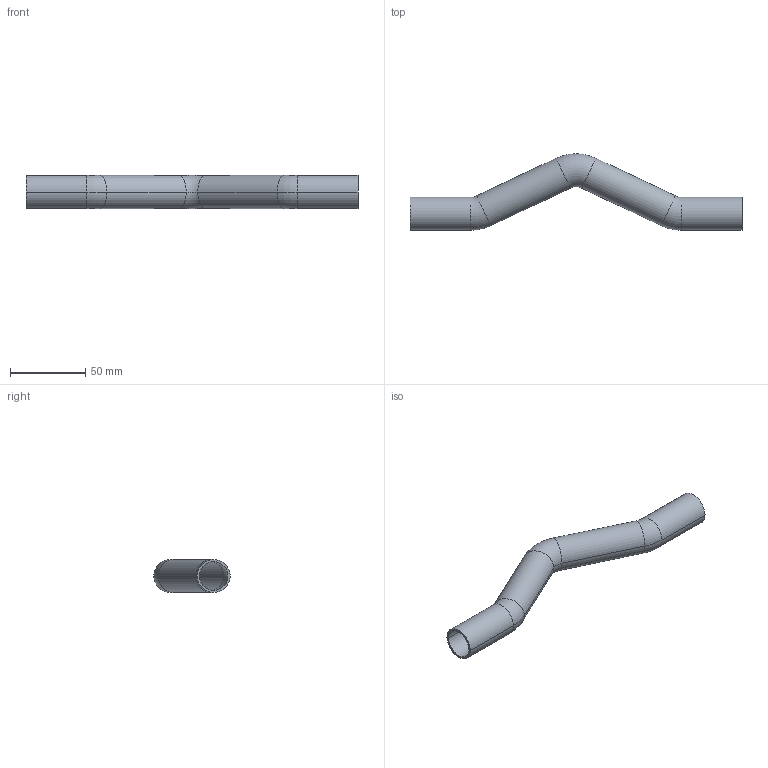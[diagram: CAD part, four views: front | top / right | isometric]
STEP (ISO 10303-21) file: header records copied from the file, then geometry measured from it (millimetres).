
FILE_DESCRIPTION (( 'STEP AP214' ), '1' );
FILE_NAME ('Q220000.STEP', '2025-08-17T13:15:23', ( '' ), ( '' ), 'SwSTEP 2.0', 'SolidWorks 2020', '' );
FILE_SCHEMA (( 'AUTOMOTIVE_DESIGN' ));
Length unit declared in the file: millimetre
Products named in the file (1): Q220000
Bounding box: 221 x 50.87 x 22 mm (x, y, z)
Volume: 22546.1 mm3; surface area: 30254.7 mm2
Topology: 1 solids, 1 shells, 30 faces, 60 edges, 32 vertices
Faces by surface type: cylinder 16, torus 12, plane 2
Entity records: 1144 total; most frequent: DIRECTION 166, CARTESIAN_POINT 123, ORIENTED_EDGE 120, AXIS2_PLACEMENT_3D 75, EDGE_CURVE 60, CIRCLE 44, UNCERTAINTY_MEASURE_WITH_UNIT 33, SURFACE_STYLE_FILL_AREA 32
